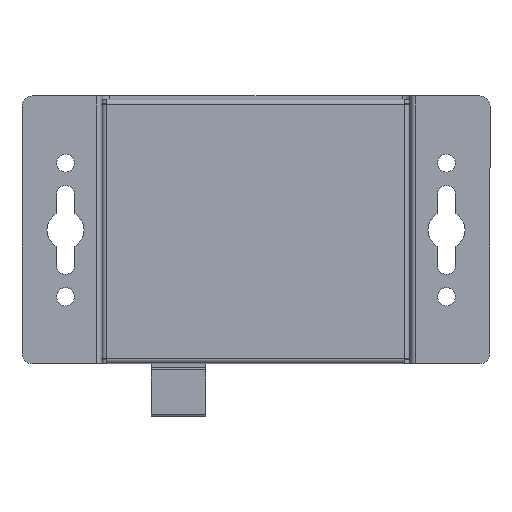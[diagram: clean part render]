
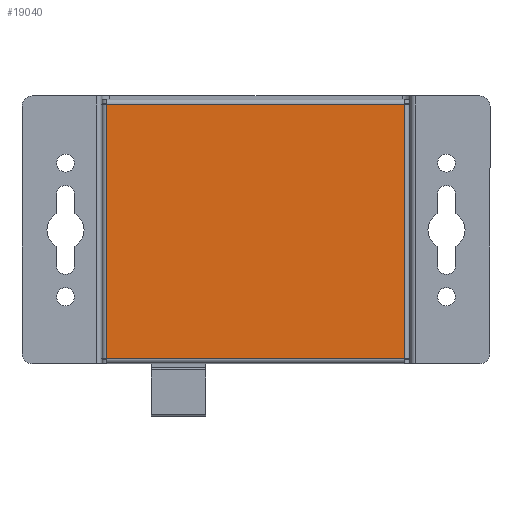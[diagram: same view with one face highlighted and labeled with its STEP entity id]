
A CAD part, front view. The second image highlights one B-rep face of the part: STEP entity #19040.
In plain terms, the highlighted planar face has unit normal (0, -1, 0).
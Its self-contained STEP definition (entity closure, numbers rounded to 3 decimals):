
#1244=PLANE('',#20667);
#2485=FACE_OUTER_BOUND('',#3565,.T.);
#3565=EDGE_LOOP('',(#17987,#17988,#17989,#17990));
#5570=LINE('',#33585,#7591);
#5575=LINE('',#33604,#7596);
#5583=LINE('',#33628,#7604);
#5585=LINE('',#33639,#7606);
#7591=VECTOR('',#25728,10.);
#7596=VECTOR('',#25753,10.);
#7604=VECTOR('',#25787,10.);
#7606=VECTOR('',#25807,10.);
#9876=VERTEX_POINT('',#33582);
#9877=VERTEX_POINT('',#33584);
#9880=VERTEX_POINT('',#33601);
#9881=VERTEX_POINT('',#33603);
#12555=EDGE_CURVE('',#9877,#9876,#5570,.T.);
#12564=EDGE_CURVE('',#9881,#9880,#5575,.T.);
#12577=EDGE_CURVE('',#9880,#9877,#5583,.T.);
#12584=EDGE_CURVE('',#9876,#9881,#5585,.T.);
#17987=ORIENTED_EDGE('',*,*,#12555,.T.);
#17988=ORIENTED_EDGE('',*,*,#12584,.T.);
#17989=ORIENTED_EDGE('',*,*,#12564,.T.);
#17990=ORIENTED_EDGE('',*,*,#12577,.T.);
#19040=ADVANCED_FACE('',(#2485),#1244,.F.);
#20667=AXIS2_PLACEMENT_3D('',#33647,#25821,#25822);
#25728=DIRECTION('',(1.,0.,0.));
#25753=DIRECTION('',(-1.,0.,0.));
#25787=DIRECTION('',(0.,0.,-1.));
#25807=DIRECTION('',(0.,0.,1.));
#25821=DIRECTION('center_axis',(0.,1.,0.));
#25822=DIRECTION('ref_axis',(0.,0.,1.));
#33582=CARTESIAN_POINT('',(24.,0.,-28.1));
#33584=CARTESIAN_POINT('',(-24.,0.,-28.1));
#33585=CARTESIAN_POINT('',(-12.,0.,-28.1));
#33601=CARTESIAN_POINT('',(-24.,0.,28.1));
#33603=CARTESIAN_POINT('',(24.,0.,28.1));
#33604=CARTESIAN_POINT('',(12.,0.,28.1));
#33628=CARTESIAN_POINT('',(-24.,0.,29.));
#33639=CARTESIAN_POINT('',(24.,0.,-29.));
#33647=CARTESIAN_POINT('Origin',(0.,0.,0.));
